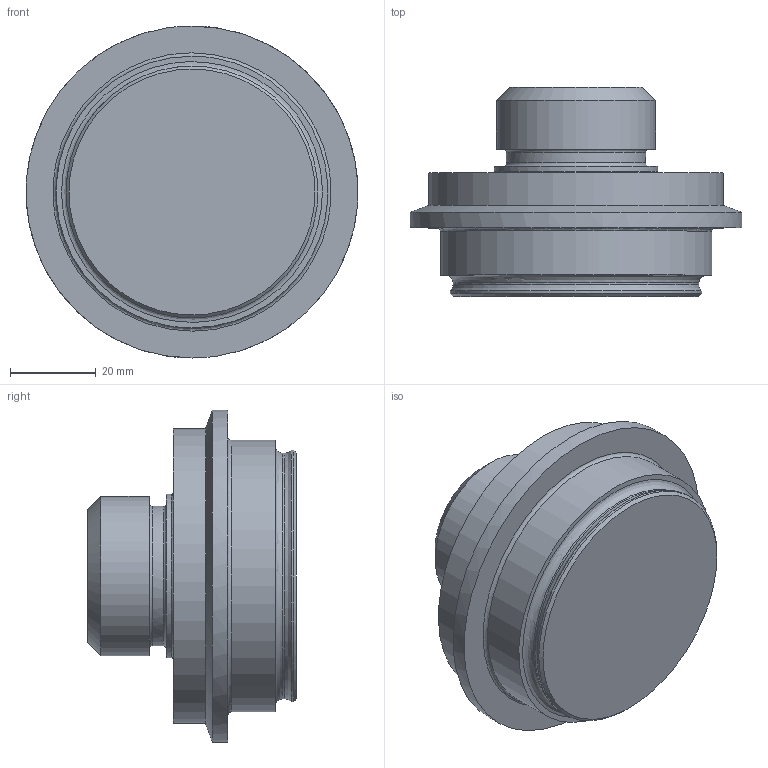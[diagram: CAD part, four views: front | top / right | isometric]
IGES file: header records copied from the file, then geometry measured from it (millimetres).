
Global section: file name: 102407 2; native system: Autodesk Inventor 2020; preprocessor: unknown; author: H7M44K; date: 20210423.111705; units: inch
Bounding box: 77.35 x 48.77 x 77.47 mm (x, y, z)
Volume: 120187.6 mm3; surface area: 17496.1 mm2
Topology: 1 solids, 1 shells, 24 faces, 68 edges, 51 vertices
Faces by surface type: bspline 24
